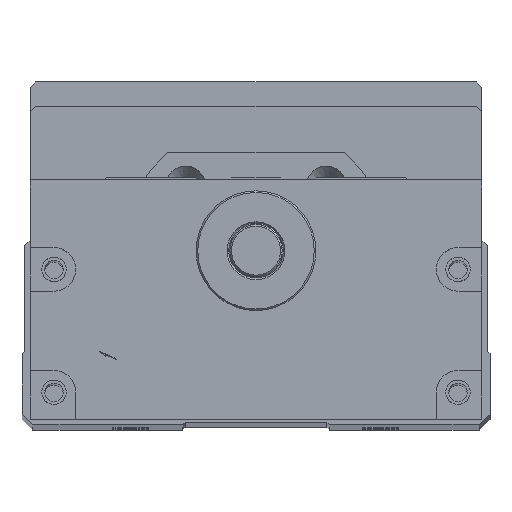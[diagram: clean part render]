
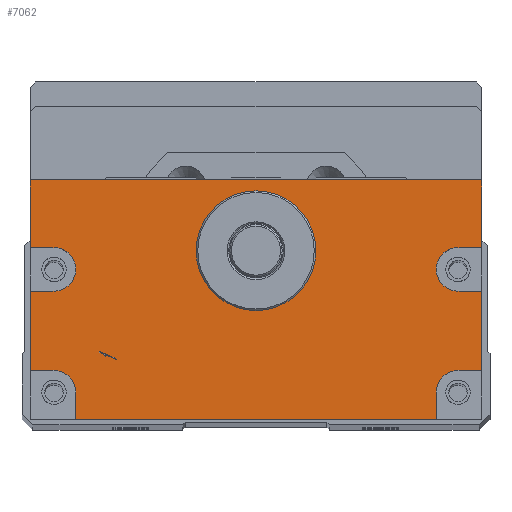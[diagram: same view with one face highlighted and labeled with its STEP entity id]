
A CAD part, top view. The second image highlights one B-rep face of the part: STEP entity #7062.
In plain terms, the highlighted planar face has unit normal (0, 0, 1).
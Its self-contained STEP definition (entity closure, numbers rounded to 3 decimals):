
#545=LINE('',#28115,#1277);
#547=LINE('',#28119,#1279);
#548=LINE('',#28122,#1280);
#549=LINE('',#28124,#1281);
#550=LINE('',#28128,#1282);
#551=LINE('',#28130,#1283);
#552=LINE('',#28131,#1284);
#553=LINE('',#28133,#1285);
#554=LINE('',#28137,#1286);
#555=LINE('',#28139,#1287);
#556=LINE('',#28141,#1288);
#557=LINE('',#28145,#1289);
#558=LINE('',#28147,#1290);
#559=LINE('',#28149,#1291);
#1277=VECTOR('',#16648,1.);
#1279=VECTOR('',#16652,1.);
#1280=VECTOR('',#16653,1.);
#1281=VECTOR('',#16654,1.);
#1282=VECTOR('',#16657,1.);
#1283=VECTOR('',#16658,1.);
#1284=VECTOR('',#16659,1.);
#1285=VECTOR('',#16660,1.);
#1286=VECTOR('',#16663,1.);
#1287=VECTOR('',#16664,1.);
#1288=VECTOR('',#16665,1.);
#1289=VECTOR('',#16668,1.);
#1290=VECTOR('',#16669,1.);
#1291=VECTOR('',#16670,1.);
#7062=ADVANCED_FACE('',(#7958,#7959),#7555,.T.);
#7555=PLANE('',#15125);
#7958=FACE_BOUND('',#8550,.T.);
#7959=FACE_BOUND('',#8551,.T.);
#8550=EDGE_LOOP('',(#10047,#10048,#10049,#10050,#10051,#10052,#10053,#10054,
#10055,#10056,#10057,#10058,#10059,#10060,#10061,#10062,#10063,#10064));
#8551=EDGE_LOOP('',(#10065));
#10047=ORIENTED_EDGE('',*,*,#13421,.F.);
#10048=ORIENTED_EDGE('',*,*,#13422,.T.);
#10049=ORIENTED_EDGE('',*,*,#13423,.F.);
#10050=ORIENTED_EDGE('',*,*,#13424,.F.);
#10051=ORIENTED_EDGE('',*,*,#13425,.F.);
#10052=ORIENTED_EDGE('',*,*,#13426,.T.);
#10053=ORIENTED_EDGE('',*,*,#13419,.T.);
#10054=ORIENTED_EDGE('',*,*,#13427,.T.);
#10055=ORIENTED_EDGE('',*,*,#13428,.F.);
#10056=ORIENTED_EDGE('',*,*,#13429,.F.);
#10057=ORIENTED_EDGE('',*,*,#13430,.F.);
#10058=ORIENTED_EDGE('',*,*,#13431,.T.);
#10059=ORIENTED_EDGE('',*,*,#13432,.F.);
#10060=ORIENTED_EDGE('',*,*,#13433,.F.);
#10061=ORIENTED_EDGE('',*,*,#13434,.F.);
#10062=ORIENTED_EDGE('',*,*,#13435,.T.);
#10063=ORIENTED_EDGE('',*,*,#13436,.F.);
#10064=ORIENTED_EDGE('',*,*,#13437,.F.);
#10065=ORIENTED_EDGE('',*,*,#13405,.T.);
#12270=VERTEX_POINT('',#28086);
#12283=VERTEX_POINT('',#28114);
#12284=VERTEX_POINT('',#28116);
#12285=VERTEX_POINT('',#28120);
#12286=VERTEX_POINT('',#28121);
#12287=VERTEX_POINT('',#28123);
#12288=VERTEX_POINT('',#28125);
#12289=VERTEX_POINT('',#28127);
#12290=VERTEX_POINT('',#28129);
#12291=VERTEX_POINT('',#28132);
#12292=VERTEX_POINT('',#28134);
#12293=VERTEX_POINT('',#28136);
#12294=VERTEX_POINT('',#28138);
#12295=VERTEX_POINT('',#28140);
#12296=VERTEX_POINT('',#28142);
#12297=VERTEX_POINT('',#28144);
#12298=VERTEX_POINT('',#28146);
#12299=VERTEX_POINT('',#28148);
#12300=VERTEX_POINT('',#28150);
#13405=EDGE_CURVE('',#12270,#12270,#14506,.T.);
#13419=EDGE_CURVE('',#12284,#12283,#545,.T.);
#13421=EDGE_CURVE('',#12285,#12286,#547,.T.);
#13422=EDGE_CURVE('',#12285,#12287,#548,.T.);
#13423=EDGE_CURVE('',#12288,#12287,#549,.T.);
#13424=EDGE_CURVE('',#12289,#12288,#14515,.T.);
#13425=EDGE_CURVE('',#12290,#12289,#550,.T.);
#13426=EDGE_CURVE('',#12290,#12284,#551,.T.);
#13427=EDGE_CURVE('',#12283,#12291,#552,.T.);
#13428=EDGE_CURVE('',#12292,#12291,#553,.T.);
#13429=EDGE_CURVE('',#12293,#12292,#14516,.T.);
#13430=EDGE_CURVE('',#12294,#12293,#554,.T.);
#13431=EDGE_CURVE('',#12294,#12295,#555,.T.);
#13432=EDGE_CURVE('',#12296,#12295,#556,.T.);
#13433=EDGE_CURVE('',#12297,#12296,#14517,.T.);
#13434=EDGE_CURVE('',#12298,#12297,#557,.T.);
#13435=EDGE_CURVE('',#12298,#12299,#558,.T.);
#13436=EDGE_CURVE('',#12300,#12299,#559,.T.);
#13437=EDGE_CURVE('',#12286,#12300,#14518,.T.);
#14506=CIRCLE('',#15109,11.);
#14515=CIRCLE('',#15121,4.);
#14516=CIRCLE('',#15122,4.);
#14517=CIRCLE('',#15123,4.);
#14518=CIRCLE('',#15124,4.);
#15109=AXIS2_PLACEMENT_3D('',#28085,#16621,#16622);
#15121=AXIS2_PLACEMENT_3D('',#28126,#16655,#16656);
#15122=AXIS2_PLACEMENT_3D('',#28135,#16661,#16662);
#15123=AXIS2_PLACEMENT_3D('',#28143,#16666,#16667);
#15124=AXIS2_PLACEMENT_3D('',#28151,#16671,#16672);
#15125=AXIS2_PLACEMENT_3D('',#28152,#16673,#16674);
#16621=DIRECTION('',(0.,0.,-1.));
#16622=DIRECTION('',(1.,0.,0.));
#16648=DIRECTION('',(-1.,0.,0.));
#16652=DIRECTION('',(-1.,0.,0.));
#16653=DIRECTION('',(0.,1.,0.));
#16654=DIRECTION('',(1.,0.,0.));
#16655=DIRECTION('',(0.,0.,1.));
#16656=DIRECTION('',(1.,0.,0.));
#16657=DIRECTION('',(-1.,0.,0.));
#16658=DIRECTION('',(0.,1.,0.));
#16659=DIRECTION('',(0.,-1.,0.));
#16660=DIRECTION('',(-1.,0.,0.));
#16661=DIRECTION('',(0.,0.,1.));
#16662=DIRECTION('',(1.,0.,0.));
#16663=DIRECTION('',(1.,0.,0.));
#16664=DIRECTION('',(0.,-1.,0.));
#16665=DIRECTION('',(-1.,0.,0.));
#16666=DIRECTION('',(0.,0.,1.));
#16667=DIRECTION('',(1.,0.,0.));
#16668=DIRECTION('',(0.,1.,0.));
#16669=DIRECTION('',(1.,0.,0.));
#16670=DIRECTION('',(0.,-1.,0.));
#16671=DIRECTION('',(0.,0.,1.));
#16672=DIRECTION('',(1.,0.,0.));
#16673=DIRECTION('',(0.,0.,1.));
#16674=DIRECTION('',(-1.,0.,0.));
#28085=CARTESIAN_POINT('',(450.,0.,382.5));
#28086=CARTESIAN_POINT('',(461.,0.,382.5));
#28114=CARTESIAN_POINT('',(408.5,13.,382.5));
#28115=CARTESIAN_POINT('',(491.5,13.,382.5));
#28116=CARTESIAN_POINT('',(491.5,13.,382.5));
#28119=CARTESIAN_POINT('',(491.5,-22.,382.5));
#28120=CARTESIAN_POINT('',(491.5,-22.,382.5));
#28121=CARTESIAN_POINT('',(487.115,-22.,382.5));
#28122=CARTESIAN_POINT('',(491.5,-31.,382.5));
#28123=CARTESIAN_POINT('',(491.5,-7.431,382.5));
#28124=CARTESIAN_POINT('',(491.5,-7.431,382.5));
#28125=CARTESIAN_POINT('',(487.115,-7.431,382.5));
#28126=CARTESIAN_POINT('',(487.115,-3.431,382.5));
#28127=CARTESIAN_POINT('',(487.115,0.569,382.5));
#28128=CARTESIAN_POINT('',(491.5,0.569,382.5));
#28129=CARTESIAN_POINT('',(491.5,0.569,382.5));
#28130=CARTESIAN_POINT('',(491.5,-31.,382.5));
#28131=CARTESIAN_POINT('',(408.5,27.5,382.5));
#28132=CARTESIAN_POINT('',(408.5,0.569,382.5));
#28133=CARTESIAN_POINT('',(491.5,0.569,382.5));
#28134=CARTESIAN_POINT('',(412.885,0.569,382.5));
#28135=CARTESIAN_POINT('',(412.885,-3.431,382.5));
#28136=CARTESIAN_POINT('',(412.885,-7.431,382.5));
#28137=CARTESIAN_POINT('',(491.5,-7.431,382.5));
#28138=CARTESIAN_POINT('',(408.5,-7.431,382.5));
#28139=CARTESIAN_POINT('',(408.5,27.5,382.5));
#28140=CARTESIAN_POINT('',(408.5,-22.,382.5));
#28141=CARTESIAN_POINT('',(491.5,-22.,382.5));
#28142=CARTESIAN_POINT('',(412.885,-22.,382.5));
#28143=CARTESIAN_POINT('',(412.885,-26.,382.5));
#28144=CARTESIAN_POINT('',(416.885,-26.,382.5));
#28145=CARTESIAN_POINT('',(416.885,-31.,382.5));
#28146=CARTESIAN_POINT('',(416.885,-31.,382.5));
#28147=CARTESIAN_POINT('',(408.5,-31.,382.5));
#28148=CARTESIAN_POINT('',(483.115,-31.,382.5));
#28149=CARTESIAN_POINT('',(483.115,-31.,382.5));
#28150=CARTESIAN_POINT('',(483.115,-26.,382.5));
#28151=CARTESIAN_POINT('',(487.115,-26.,382.5));
#28152=CARTESIAN_POINT('',(491.5,-31.,382.5));
